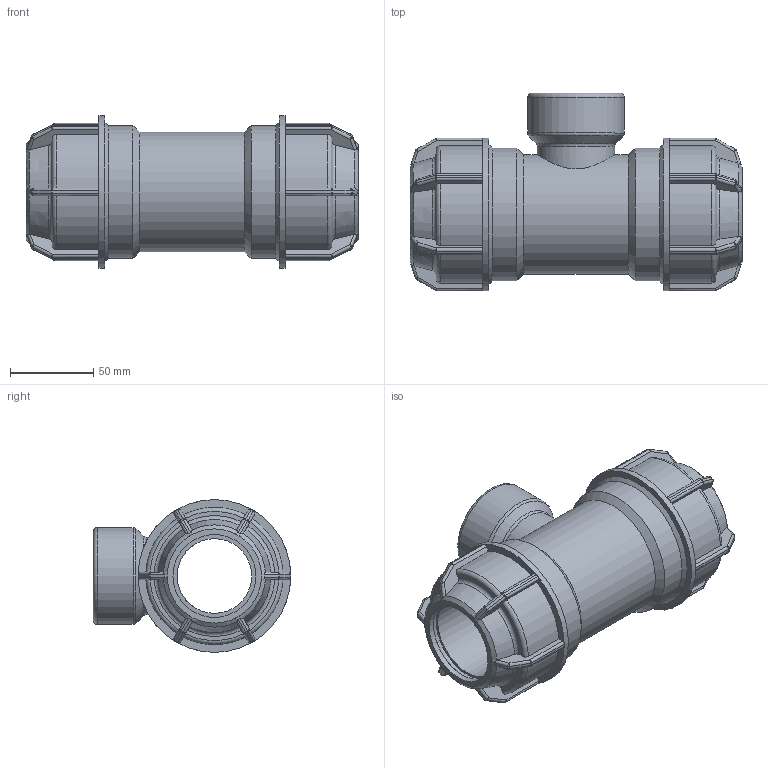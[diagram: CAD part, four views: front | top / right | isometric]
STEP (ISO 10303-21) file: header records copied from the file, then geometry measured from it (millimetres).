
FILE_DESCRIPTION(/* description */ ('PLASSON L.14 TEE FEMALE ADAPTOR (SILVER) 50 x 1.1/2" x 50'),/* implementation_level */ '2;1');
FILE_NAME(/* name */ 'C:\Dropbox\KIMPROJECTS-Inventor\99-16-3568-Processing\Silver Fittings\141400\141400050015.ipt.stp',/* time_stamp */ '2018-04-16T11:15:56+03:00',/* author */ ('KIM'),/* organization */ (''),/* preprocessor_version */ 'ST-DEVELOPER v15.6',/* originating_system */ 'Autodesk Inventor 2015',/* authorisation */ '');
FILE_SCHEMA (('AUTOMOTIVE_DESIGN { 1 0 10303 214 3 1 1 }'));
Length unit declared in the file: millimetre
Products named in the file (1): 141400050015
Bounding box: 200 x 119 x 92 mm (x, y, z)
Volume: 587498 mm3; surface area: 108282.7 mm2
Topology: 1 solids, 1 shells, 416 faces, 1000 edges, 572 vertices
Faces by surface type: plane 196, cylinder 122, sphere 48, torus 31, cone 19
Full cylindrical faces by diameter (mm): 35 x1, 44.845 x1, 45 x1, 46.639 x1, 50 x4, 58.298 x1, 72 x1, 80 x2, 92 x2
Entity records: 12044 total; most frequent: CARTESIAN_POINT 3149, DIRECTION 1872, ORIENTED_EDGE 1822, EDGE_CURVE 911, AXIS2_PLACEMENT_3D 756, VERTEX_POINT 539, EDGE_LOOP 450, FACE_OUTER_BOUND 410
